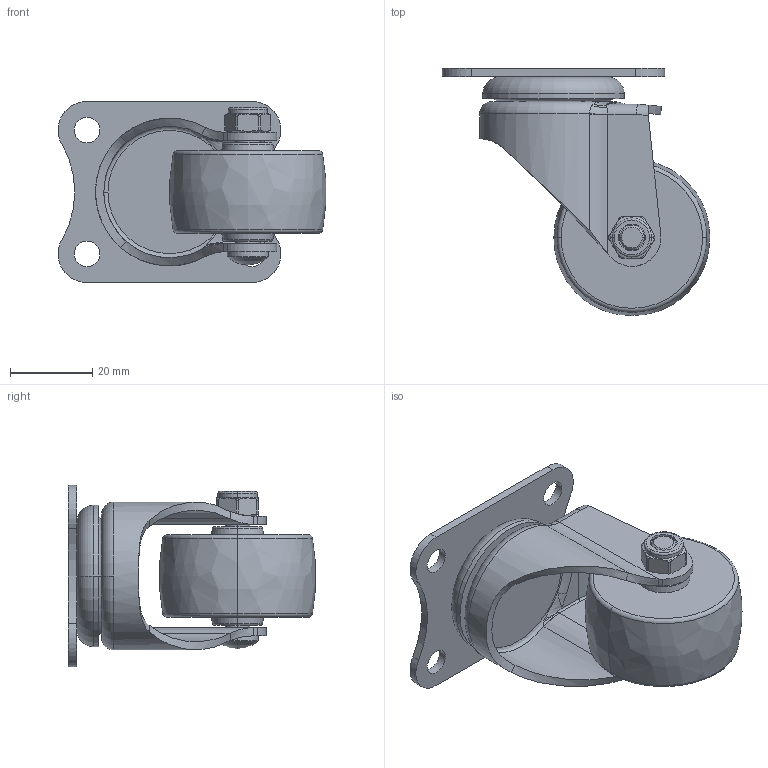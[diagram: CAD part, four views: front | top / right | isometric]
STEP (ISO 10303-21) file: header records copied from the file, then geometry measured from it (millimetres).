
FILE_DESCRIPTION((''),'2;1');
FILE_NAME('26115-2615-83_ASM','2019-12-13T',('L'),(''),'PRO/ENGINEER BY PARAMETRIC TECHNOLOGY CORPORATION, 2010280','PRO/ENGINEER BY PARAMETRIC TECHNOLOGY CORPORATION, 2010280','');
FILE_SCHEMA(('CONFIG_CONTROL_DESIGN'));
Length unit declared in the file: millimetre
Products named in the file (5): 261115; 2615-83; 2610-020; 2610-031; 26115-2615-83_ASM
Assembly tree (4 placements, depth 2):
  26115-2615-83_ASM
    261115
    2615-83
    2610-020
    2610-031
Bounding box: 64.91 x 59.9 x 44 mm (x, y, z)
Volume: 38312.3 mm3; surface area: 18302.5 mm2
Topology: 4 solids, 4 shells, 174 faces, 412 edges, 249 vertices
Faces by surface type: cylinder 57, plane 38, torus 30, bspline 29, cone 18, sphere 2
Entity records: 6703 total; most frequent: CARTESIAN_POINT 2673, DIRECTION 842, ORIENTED_EDGE 812, EDGE_CURVE 406, AXIS2_PLACEMENT_3D 362, VERTEX_POINT 249, CIRCLE 208, EDGE_LOOP 199
